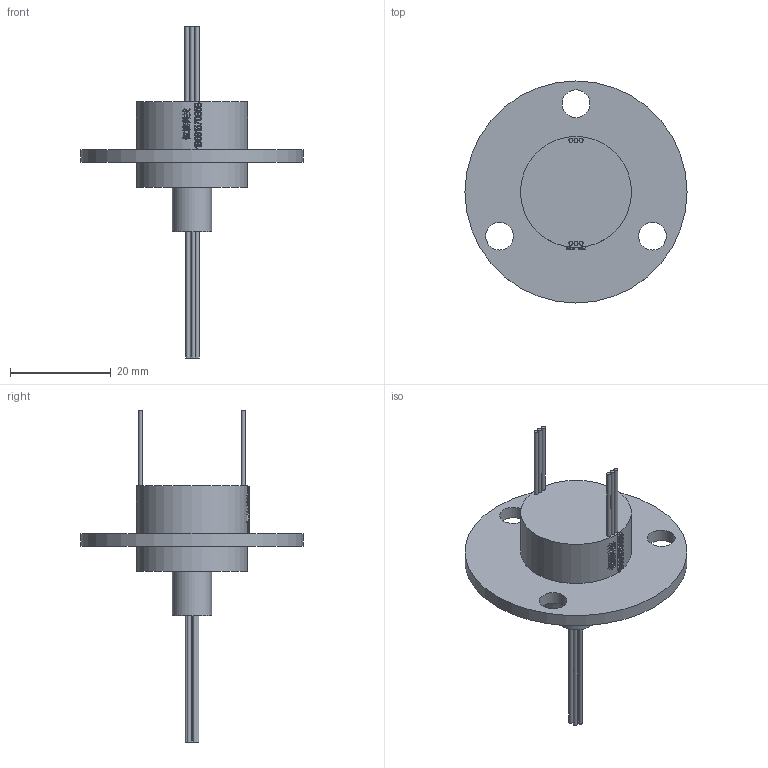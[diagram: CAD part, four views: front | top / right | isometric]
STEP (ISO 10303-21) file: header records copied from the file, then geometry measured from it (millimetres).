
FILE_DESCRIPTION(/* description */ (''),/* implementation_level */ '2;1');
FILE_NAME(/* name */ 'HM022-06.stp',/* time_stamp */ '2025-09-23T10:03:55+08:00',/* author */ (''),/* organization */ (''),/* preprocessor_version */ 'ST-DEVELOPER v16.7',/* originating_system */ 'SIEMENS PLM Software NX 12.0',/* authorisation */ '');
FILE_SCHEMA (('AUTOMOTIVE_DESIGN { 1 0 10303 214 3 1 1 1 }'));
Length unit declared in the file: millimetre
Products named in the file (1): Admi3294BFCC0mck
Bounding box: 44 x 44 x 65.8 mm (x, y, z)
Volume: 9679.5 mm3; surface area: 5257.6 mm2
Topology: 1 solids, 1 shells, 565 faces, 1535 edges, 1024 vertices
Faces by surface type: extrusion 311, plane 198, cylinder 30, bspline 26
Full cylindrical faces by diameter (mm): 0.8 x12, 5.5 x3, 7.8 x1, 22 x2, 44 x1
Entity records: 23438 total; most frequent: CARTESIAN_POINT 11584, ORIENTED_EDGE 3028, B_SPLINE_CURVE_WITH_KNOTS 1557, EDGE_CURVE 1514, DIRECTION 1207, VERTEX_POINT 1022, EDGE_LOOP 642, ADVANCED_FACE 565
